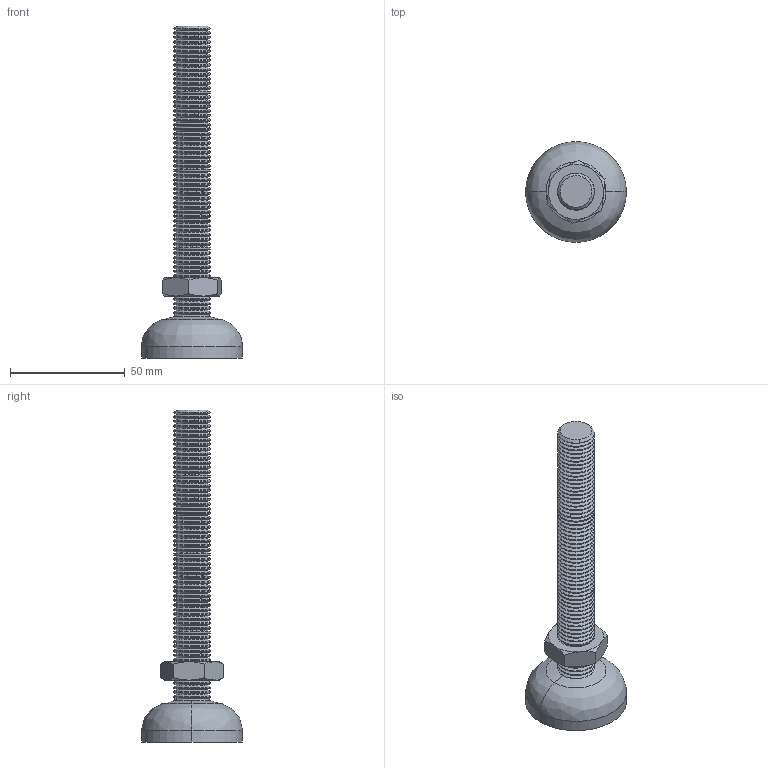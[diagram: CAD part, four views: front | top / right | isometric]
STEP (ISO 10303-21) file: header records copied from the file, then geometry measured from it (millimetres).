
FILE_DESCRIPTION (( 'STEP AP203' ), '1' );
FILE_NAME ('501013_Gelenkfuß Ø44 M16x145.step', '2022-06-28T07:38:37', ( '' ), ( '' ), 'SwSTEP 2.0', 'SolidWorks 2021', '' );
FILE_SCHEMA (( 'CONFIG_CONTROL_DESIGN' ));
Length unit declared in the file: millimetre
Products named in the file (1): 501013_Gelenkfuß Ø44 M16x145
Bounding box: 44 x 44 x 144.74 mm (x, y, z)
Volume: 40036.2 mm3; surface area: 18576.8 mm2
Topology: 5 solids, 5 shells, 493 faces, 1256 edges, 776 vertices
Faces by surface type: cone 314, cylinder 156, plane 19, bspline 4
Entity records: 15299 total; most frequent: DIRECTION 2980, CARTESIAN_POINT 2730, ORIENTED_EDGE 2512, AXIS2_PLACEMENT_3D 1258, EDGE_CURVE 1256, VERTEX_POINT 776, CIRCLE 768, EDGE_LOOP 498
